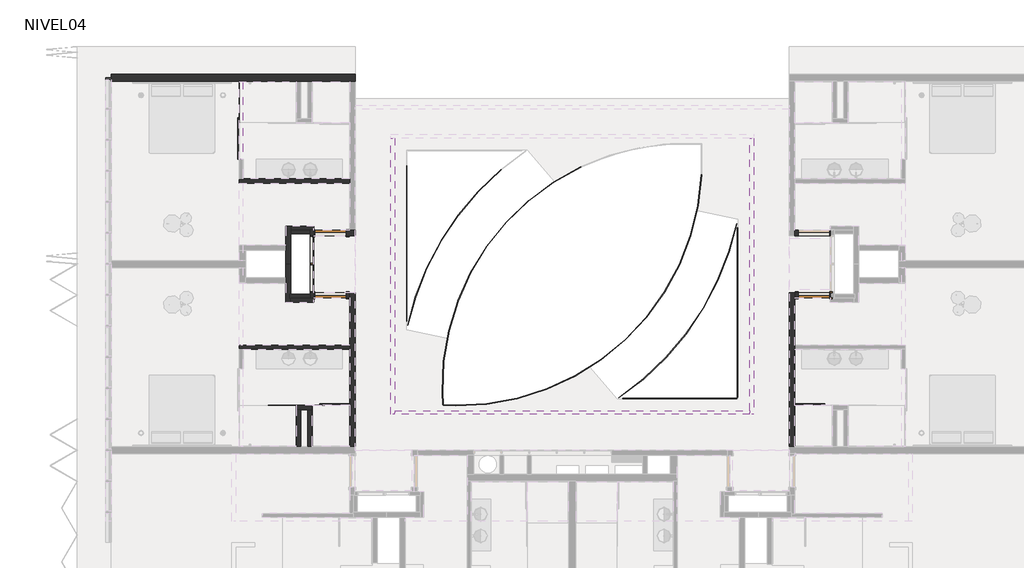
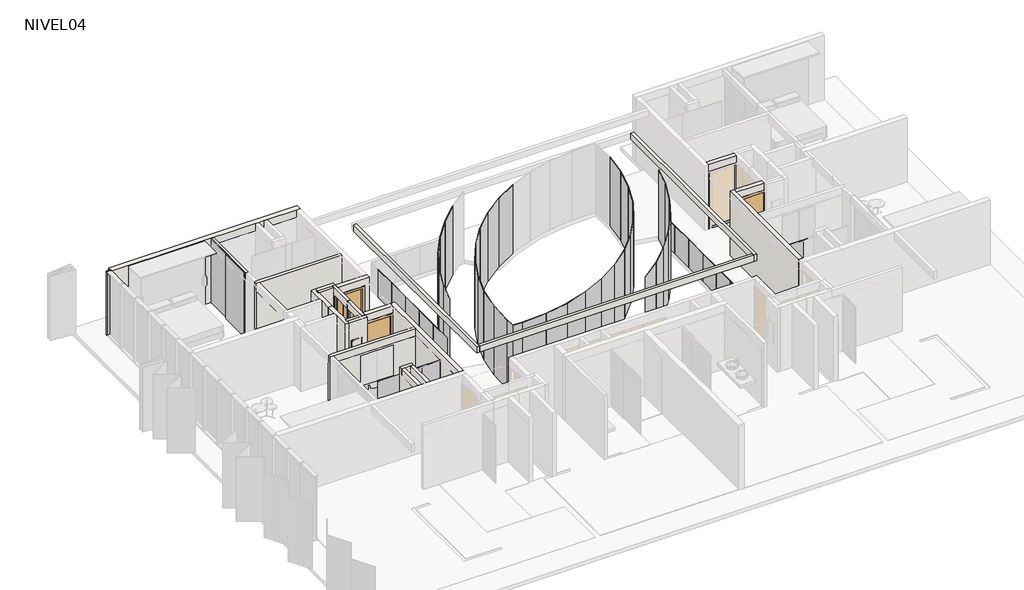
# One storey, part 5 of 8: 56 plates, 30 walls, 5 doors, 1 member.
"""IFC4 building model written with IfcOpenShell, lengths in millimetres."""

from ifc_helpers import new_model, si_unit, frame, origin, place, context, project, spatial, polyline, outline, extrude, faceted_brep, transform, mapped, element, save
from components import m_single_flush_910x_224_a4f79d59, m_single_flush_910x_224_d199ccfa, puerta_closet_shaft_82_5_x_224cm_10222c01, puerta_closet_shaft_82_5_x_224cm_6ba6ac82, rectangular_mullion_50_x_150mm_da4cfd0d, panel_corredera_cr_panel_corredera_1cb9417a, panel_corredera_cr_panel_corredera_99e605cf, panel_corredera_cr_panel_corredera_8db39db7, system_panel_5ccbd7a3, system_panel_34dc83f9, system_panel_bb99d6db, system_panel_d16f8cfc, system_panel_5bddcc3b, system_panel_8f9a12f6, system_panel_c363a63a, system_panel_ba3bad07, system_panel_cr_shower_c0953742, system_panel_cr_shower_685ec66b

model = new_model("IFC4")

# Units and contexts
model_context = context("Model", 3, world=origin())
ifc_project = project(units=[si_unit("LENGTHUNIT", "METRE", prefix="MILLI")], contexts=[model_context])

# Site, building, storey
site = spatial("IfcSite", under=ifc_project)
building = spatial("IfcBuilding", under=site)
storey = spatial("IfcBuildingStorey", under=building, Name="NIVEL04", Elevation=7940.0)

# Doors
placement = place(None, origin())
m_single_flush_910x_224_shape = m_single_flush_910x_224_a4f79d59(model_context)
element("IfcDoor", 1, ObjectType="M_Single-Flush : 910x 224", at=placement, inside=storey, context=model_context, shape_type="MappedRepresentation", body=[
    mapped(m_single_flush_910x_224_shape, transform((-14191.0934748, 6033.9139241, 7940.0), x_axis=(1.0, 0.0, 0.0), y_axis=(0.0, 1.0, 0.0), z_axis=(0.0, 0.0, 1.0))),
])
element("IfcDoor", 2, ObjectType="M_Single-Flush : 910x 224", at=placement, inside=storey, context=model_context, shape_type="MappedRepresentation", body=[
    mapped(m_single_flush_910x_224_shape, transform((-176.0934748, 4233.9139241, 7940.0), x_axis=(-1.0, 0.0, 0.0), y_axis=(0.0, -1.0, 0.0), z_axis=(0.0, 0.0, 1.0))),
])
m_single_flush_910x_224_2_shape = m_single_flush_910x_224_d199ccfa(model_context)
element("IfcDoor", 3, ObjectType="M_Single-Flush : 910x 224", at=placement, inside=storey, context=model_context, shape_type="MappedRepresentation", body=[
    mapped(m_single_flush_910x_224_2_shape, transform((-14191.0934748, 4233.9139241, 7940.0), x_axis=(1.0, 0.0, 0.0), y_axis=(0.0, 1.0, 0.0), z_axis=(0.0, 0.0, 1.0))),
])
puerta_closet_shaft_82_5_x_224cm_shape = puerta_closet_shaft_82_5_x_224cm_10222c01(model_context)
element("IfcDoor", 4, ObjectType="PUERTA CLOSET SHAFT : 82.5 x 224cm", at=placement, inside=storey, context=model_context, shape_type="MappedRepresentation", body=[
    mapped(puerta_closet_shaft_82_5_x_224cm_shape, transform((-14728.5934748, 4404.8823532, 7940.0), x_axis=(0.0, -1.0, 0.0), y_axis=(1.0, 0.0, 0.0), z_axis=(0.0, 0.0, 1.0))),
])
puerta_closet_shaft_82_5_x_224cm_2_shape = puerta_closet_shaft_82_5_x_224cm_6ba6ac82(model_context)
element("IfcDoor", 5, ObjectType="PUERTA CLOSET SHAFT : 82.5 x 224cm", at=placement, inside=storey, context=model_context, shape_type="MappedRepresentation", body=[
    mapped(puerta_closet_shaft_82_5_x_224cm_2_shape, transform((-14728.5934748, 5862.9454949, 7940.0), x_axis=(0.0, 1.0, 0.0), y_axis=(-1.0, 0.0, 0.0), z_axis=(0.0, 0.0, 1.0))),
])

# Member
rectangular_mullion_50_x_150mm_shape = rectangular_mullion_50_x_150mm_da4cfd0d(model_context)
element("IfcMember", 6, ObjectType="Rectangular Mullion : 50 x 150mm", at=placement, inside=storey, context=model_context, shape_type="MappedRepresentation", body=[
    mapped(rectangular_mullion_50_x_150mm_shape, transform((-20633.5934748, 10533.9139241, 10490.0), x_axis=(0.0, 1.0, 0.0), y_axis=(-1.0, 0.0, 0.0), z_axis=(0.0, 0.0, 1.0))),
])

# Plates
panel_corredera_cr_panel_corredera_shape = panel_corredera_cr_panel_corredera_1cb9417a(model_context)
element("IfcPlate", 7, ObjectType="PANEL CORREDERA : CR_PANEL CORREDERA", at=placement, inside=storey, context=model_context, shape_type="MappedRepresentation", body=[
    mapped(panel_corredera_cr_panel_corredera_shape, transform((-13994.9268082, 1033.9139241, 7940.0), x_axis=(-1.0, 0.0, 0.0), y_axis=(0.0, -1.0, 0.0), z_axis=(0.0, 0.0, 1.0))),
])
panel_corredera_cr_panel_corredera_2_shape = panel_corredera_cr_panel_corredera_99e605cf(model_context)
element("IfcPlate", 8, ObjectType="PANEL CORREDERA : CR_PANEL CORREDERA", at=placement, inside=storey, context=model_context, shape_type="MappedRepresentation", body=[
    mapped(panel_corredera_cr_panel_corredera_2_shape, transform((-372.2601415, 1033.9139241, 7940.0), x_axis=(1.0, 0.0, 0.0), y_axis=(0.0, 1.0, 0.0), z_axis=(0.0, 0.0, 1.0))),
])
panel_corredera_cr_panel_corredera_3_shape = panel_corredera_cr_panel_corredera_8db39db7(model_context)
element("IfcPlate", 9, ObjectType="PANEL CORREDERA : CR_PANEL CORREDERA", at=placement, inside=storey, context=model_context, shape_type="MappedRepresentation", body=[
    mapped(panel_corredera_cr_panel_corredera_3_shape, transform((-16848.5934748, 8703.9139241, 7940.0), x_axis=(0.0, 1.0, 0.0), y_axis=(-1.0, 0.0, 0.0), z_axis=(0.0, 0.0, 1.0))),
])
system_panel_shape = system_panel_5ccbd7a3(model_context)
element("IfcPlate", 10, ObjectType="System Panel : CR-BARANDA", at=placement, inside=storey, context=model_context, shape_type="MappedRepresentation", body=[
    mapped(system_panel_shape, transform((-2383.5934748, 5738.757085, 7940.0), x_axis=(0.0, -1.0, 0.0), y_axis=(1.0, 0.0, 0.0), z_axis=(0.0, 0.0, 1.0))),
])
element("IfcPlate", 11, ObjectType="System Panel : CR-BARANDA", at=placement, inside=storey, context=model_context, shape_type="MappedRepresentation", body=[
    mapped(system_panel_shape, transform((-2859.843475, 1233.9139241, 7940.0), x_axis=(-1.0, 0.0, 0.0), y_axis=(0.0, -1.0, 0.0), z_axis=(0.0, 0.0, 1.0))),
])
element("IfcPlate", 12, ObjectType="System Panel : CR-BARANDA", at=placement, inside=storey, context=model_context, shape_type="MappedRepresentation", body=[
    mapped(system_panel_shape, transform((-11983.5934748, 3929.0707631, 7940.0), x_axis=(0.0, 1.0, 0.0), y_axis=(-1.0, 0.0, 0.0), z_axis=(0.0, 0.0, 1.0))),
])
element("IfcPlate", 13, ObjectType="System Panel : CR-BARANDA", at=placement, inside=storey, context=model_context, shape_type="MappedRepresentation", body=[
    mapped(system_panel_shape, transform((-3759.8434752, 1233.9139241, 7940.0), x_axis=(-1.0, 0.0, 0.0), y_axis=(0.0, -1.0, 0.0), z_axis=(0.0, 0.0, 1.0))),
])
element("IfcPlate", 14, ObjectType="System Panel : CR-BARANDA", at=placement, inside=storey, context=model_context, shape_type="MappedRepresentation", body=[
    mapped(system_panel_shape, transform((-4659.8434752, 1233.9139241, 7940.0), x_axis=(-1.0, 0.0, 0.0), y_axis=(0.0, -1.0, 0.0), z_axis=(0.0, 0.0, 1.0))),
])
element("IfcPlate", 15, ObjectType="System Panel : CR-BARANDA", at=placement, inside=storey, context=model_context, shape_type="MappedRepresentation", body=[
    mapped(system_panel_shape, transform((-2383.5934748, 4838.7570848, 7940.0), x_axis=(0.0, -1.0, 0.0), y_axis=(1.0, 0.0, 0.0), z_axis=(0.0, 0.0, 1.0))),
])
element("IfcPlate", 16, ObjectType="System Panel : CR-BARANDA", at=placement, inside=storey, context=model_context, shape_type="MappedRepresentation", body=[
    mapped(system_panel_shape, transform((-2383.5934748, 3938.7570848, 7940.0), x_axis=(0.0, -1.0, 0.0), y_axis=(1.0, 0.0, 0.0), z_axis=(0.0, 0.0, 1.0))),
])
element("IfcPlate", 17, ObjectType="System Panel : CR-BARANDA", at=placement, inside=storey, context=model_context, shape_type="MappedRepresentation", body=[
    mapped(system_panel_shape, transform((-2383.5934748, 3038.7570848, 7940.0), x_axis=(0.0, -1.0, 0.0), y_axis=(1.0, 0.0, 0.0), z_axis=(0.0, 0.0, 1.0))),
])
element("IfcPlate", 18, ObjectType="System Panel : CR-BARANDA", at=placement, inside=storey, context=model_context, shape_type="MappedRepresentation", body=[
    mapped(system_panel_shape, transform((-2383.5934748, 2138.7570848, 7940.0), x_axis=(0.0, -1.0, 0.0), y_axis=(1.0, 0.0, 0.0), z_axis=(0.0, 0.0, 1.0))),
])
element("IfcPlate", 19, ObjectType="System Panel : CR-BARANDA", at=placement, inside=storey, context=model_context, shape_type="MappedRepresentation", body=[
    mapped(system_panel_shape, transform((-11983.5934748, 4829.0707633, 7940.0), x_axis=(0.0, 1.0, 0.0), y_axis=(-1.0, 0.0, 0.0), z_axis=(0.0, 0.0, 1.0))),
])
element("IfcPlate", 20, ObjectType="System Panel : CR-BARANDA", at=placement, inside=storey, context=model_context, shape_type="MappedRepresentation", body=[
    mapped(system_panel_shape, transform((-11983.5934748, 5729.0707633, 7940.0), x_axis=(0.0, 1.0, 0.0), y_axis=(-1.0, 0.0, 0.0), z_axis=(0.0, 0.0, 1.0))),
])
element("IfcPlate", 21, ObjectType="System Panel : CR-BARANDA", at=placement, inside=storey, context=model_context, shape_type="MappedRepresentation", body=[
    mapped(system_panel_shape, transform((-11983.5934748, 6629.0707633, 7940.0), x_axis=(0.0, 1.0, 0.0), y_axis=(-1.0, 0.0, 0.0), z_axis=(0.0, 0.0, 1.0))),
])
element("IfcPlate", 22, ObjectType="System Panel : CR-BARANDA", at=placement, inside=storey, context=model_context, shape_type="MappedRepresentation", body=[
    mapped(system_panel_shape, transform((-11983.5934748, 7529.0707633, 7940.0), x_axis=(0.0, 1.0, 0.0), y_axis=(-1.0, 0.0, 0.0), z_axis=(0.0, 0.0, 1.0))),
])
system_panel_2_shape = system_panel_34dc83f9(model_context)
element("IfcPlate", 23, ObjectType="System Panel : CR-BARANDA", at=placement, inside=storey, context=model_context, shape_type="MappedRepresentation", body=[
    mapped(system_panel_2_shape, transform((-5412.343475, 1233.9139241, 7940.0), x_axis=(-1.0, 0.0, 0.0), y_axis=(0.0, -1.0, 0.0), z_axis=(0.0, 0.0, 1.0))),
])
system_panel_3_shape = system_panel_bb99d6db(model_context)
element("IfcPlate", 24, ObjectType="System Panel : CR-BARANDA", at=placement, inside=storey, context=model_context, shape_type="MappedRepresentation", body=[
    mapped(system_panel_3_shape, transform((-2383.5934748, 1478.757085, 7940.0), x_axis=(0.0, -1.0, 0.0), y_axis=(1.0, 0.0, 0.0), z_axis=(0.0, 0.0, 1.0))),
])
system_panel_4_shape = system_panel_d16f8cfc(model_context)
element("IfcPlate", 25, ObjectType="System Panel : CR-BARANDA", at=placement, inside=storey, context=model_context, shape_type="MappedRepresentation", body=[
    mapped(system_panel_4_shape, transform((-7331.2063026, 7728.1154532, 7940.0), x_axis=(-0.8730074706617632, -0.4877068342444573, 0.0), y_axis=(0.4877068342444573, -0.8730074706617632, 0.0), z_axis=(0.0, 0.0, 1.0))),
])
element("IfcPlate", 26, ObjectType="System Panel : CR-BARANDA", at=placement, inside=storey, context=model_context, shape_type="MappedRepresentation", body=[
    mapped(system_panel_4_shape, transform((-8085.741745, 7240.9048287, 7940.0), x_axis=(-0.8037379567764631, -0.5949834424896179, 0.0), y_axis=(0.5949834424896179, -0.8037379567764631, 0.0), z_axis=(0.0, 0.0, 1.0))),
])
element("IfcPlate", 27, ObjectType="System Panel : CR-BARANDA", at=placement, inside=storey, context=model_context, shape_type="MappedRepresentation", body=[
    mapped(system_panel_4_shape, transform((-8772.0368429, 6661.5112103, 7940.0), x_axis=(-0.7213622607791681, -0.6925579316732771, 0.0), y_axis=(0.6925579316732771, -0.7213622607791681, 0.0), z_axis=(0.0, 0.0, 1.0))),
])
element("IfcPlate", 28, ObjectType="System Panel : CR-BARANDA", at=placement, inside=storey, context=model_context, shape_type="MappedRepresentation", body=[
    mapped(system_panel_4_shape, transform((-9378.9005004, 5999.3825011, 7940.0), x_axis=(-0.6272236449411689, -0.7788391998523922, 0.0), y_axis=(0.7788391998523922, -0.6272236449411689, 0.0), z_axis=(0.0, 0.0, 1.0))),
])
element("IfcPlate", 29, ObjectType="System Panel : CR-BARANDA", at=placement, inside=storey, context=model_context, shape_type="MappedRepresentation", body=[
    mapped(system_panel_4_shape, transform((-9896.4368735, 5265.3157269, 7940.0), x_axis=(-0.5228571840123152, -0.8524202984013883, 0.0), y_axis=(0.8524202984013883, -0.5228571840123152, 0.0), z_axis=(0.0, 0.0, 1.0))),
])
element("IfcPlate", 30, ObjectType="System Panel : CR-BARANDA", at=placement, inside=storey, context=model_context, shape_type="MappedRepresentation", body=[
    mapped(system_panel_4_shape, transform((-10316.2067363, 4471.2809741, 7940.0), x_axis=(-0.40996473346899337, -0.9121013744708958, 0.0), y_axis=(0.9121013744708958, -0.40996473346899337, 0.0), z_axis=(0.0, 0.0, 1.0))),
])
element("IfcPlate", 31, ObjectType="System Panel : CR-BARANDA", at=placement, inside=storey, context=model_context, shape_type="MappedRepresentation", body=[
    mapped(system_panel_4_shape, transform((-10631.3650965, 3630.2261992, 7940.0), x_axis=(-0.2903871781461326, -0.9569092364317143, 0.0), y_axis=(0.9569092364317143, -0.2903871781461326, 0.0), z_axis=(0.0, 0.0, 1.0))),
])
element("IfcPlate", 32, ObjectType="System Panel : CR-BARANDA", at=placement, inside=storey, context=model_context, shape_type="MappedRepresentation", body=[
    mapped(system_panel_4_shape, transform((-10836.7728129, 2755.8660923, 7940.0), x_axis=(-0.16607441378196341, -0.9861132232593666, 0.0), y_axis=(0.9861132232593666, -0.16607441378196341, 0.0), z_axis=(0.0, 0.0, 1.0))),
])
element("IfcPlate", 33, ObjectType="System Panel : CR-BARANDA", at=placement, inside=storey, context=model_context, shape_type="MappedRepresentation", body=[
    mapped(system_panel_4_shape, transform((-10929.0803971, 1862.4584383, 7940.0), x_axis=(-0.039053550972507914, -0.9992371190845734, 0.0), y_axis=(0.9992371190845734, -0.039053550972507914, 0.0), z_axis=(0.0, 0.0, 1.0))),
])
system_panel_5_shape = system_panel_5bddcc3b(model_context)
element("IfcPlate", 34, ObjectType="System Panel : CR-BARANDA", at=placement, inside=storey, context=model_context, shape_type="MappedRepresentation", body=[
    mapped(system_panel_5_shape, transform((-10937.3624941, 1230.0346436, 7940.0), x_axis=(0.05077508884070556, -0.9987101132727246, 0.0), y_axis=(0.9987101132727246, 0.05077508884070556, 0.0), z_axis=(0.0, 0.0, 1.0))),
])
system_panel_6_shape = system_panel_8f9a12f6(model_context)
element("IfcPlate", 35, ObjectType="System Panel : CR-BARANDA", at=placement, inside=storey, context=model_context, shape_type="MappedRepresentation", body=[
    mapped(system_panel_6_shape, transform((-5476.4920391, 1528.1257546, 7940.0), x_axis=(0.7955573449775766, 0.6058782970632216, 0.0), y_axis=(-0.6058782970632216, 0.7955573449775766, 0.0), z_axis=(0.0, 0.0, 1.0))),
])
element("IfcPlate", 36, ObjectType="System Panel : CR-BARANDA", at=placement, inside=storey, context=model_context, shape_type="MappedRepresentation", body=[
    mapped(system_panel_4_shape, transform((-9573.0942482, 7558.7054405, 7940.0), x_axis=(-0.7250107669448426, -0.6887375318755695, 0.0), y_axis=(0.6887375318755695, -0.7250107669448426, 0.0), z_axis=(0.0, 0.0, 1.0))),
])
element("IfcPlate", 37, ObjectType="System Panel : CR-BARANDA", at=placement, inside=storey, context=model_context, shape_type="MappedRepresentation", body=[
    mapped(system_panel_4_shape, transform((-10189.892753, 6905.1394698, 7940.0), x_axis=(-0.645652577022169, -0.763631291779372, 0.0), y_axis=(0.763631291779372, -0.645652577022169, 0.0), z_axis=(0.0, 0.0, 1.0))),
])
element("IfcPlate", 38, ObjectType="System Panel : CR-BARANDA", at=placement, inside=storey, context=model_context, shape_type="MappedRepresentation", body=[
    mapped(system_panel_4_shape, transform((-10731.8094423, 6188.2606967, 7940.0), x_axis=(-0.558606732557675, -0.8294326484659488, 0.0), y_axis=(0.8294326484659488, -0.558606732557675, 0.0), z_axis=(0.0, 0.0, 1.0))),
])
element("IfcPlate", 39, ObjectType="System Panel : CR-BARANDA", at=placement, inside=storey, context=model_context, shape_type="MappedRepresentation", body=[
    mapped(system_panel_4_shape, transform((-11192.3918238, 5416.6048516, 7940.0), x_axis=(-0.46490967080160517, -0.8853581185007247, 0.0), y_axis=(0.8853581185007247, -0.46490967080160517, 0.0), z_axis=(0.0, 0.0, 1.0))),
])
element("IfcPlate", 40, ObjectType="System Panel : CR-BARANDA", at=placement, inside=storey, context=model_context, shape_type="MappedRepresentation", body=[
    mapped(system_panel_4_shape, transform((-11566.1558363, 4599.3598844, 7940.0), x_axis=(-0.36567702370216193, -0.9307418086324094, 0.0), y_axis=(0.9307418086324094, -0.36567702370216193, 0.0), z_axis=(0.0, 0.0, 1.0))),
])
element("IfcPlate", 41, ObjectType="System Panel : CR-BARANDA", at=placement, inside=storey, context=model_context, shape_type="MappedRepresentation", body=[
    mapped(system_panel_4_shape, transform((-3479.1267798, 7273.6025956, 7940.0), x_axis=(-0.11465787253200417, -0.9934050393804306, 0.0), y_axis=(0.9934050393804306, -0.11465787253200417, 0.0), z_axis=(0.0, 0.0, 1.0))),
])
element("IfcPlate", 42, ObjectType="System Panel : CR-BARANDA", at=placement, inside=storey, context=model_context, shape_type="MappedRepresentation", body=[
    mapped(system_panel_4_shape, transform((-3638.8664144, 6389.7580529, 7940.0), x_axis=(-0.24031909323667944, -0.9706939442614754, 0.0), y_axis=(0.9706939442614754, -0.24031909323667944, 0.0), z_axis=(0.0, 0.0, 1.0))),
])
element("IfcPlate", 43, ObjectType="System Panel : CR-BARANDA", at=placement, inside=storey, context=model_context, shape_type="MappedRepresentation", body=[
    mapped(system_panel_4_shape, transform((-3909.9377002, 5533.4763911, 7940.0), x_axis=(-0.36206154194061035, -0.9321541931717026, 0.0), y_axis=(0.9321541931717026, -0.36206154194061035, 0.0), z_axis=(0.0, 0.0, 1.0))),
])
element("IfcPlate", 44, ObjectType="System Panel : CR-BARANDA", at=placement, inside=storey, context=model_context, shape_type="MappedRepresentation", body=[
    mapped(system_panel_4_shape, transform((-4287.9204035, 4718.720598, 7940.0), x_axis=(-0.4779000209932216, -0.87841423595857, 0.0), y_axis=(0.87841423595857, -0.4779000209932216, 0.0), z_axis=(0.0, 0.0, 1.0))),
])
element("IfcPlate", 45, ObjectType="System Panel : CR-BARANDA", at=placement, inside=storey, context=model_context, shape_type="MappedRepresentation", body=[
    mapped(system_panel_4_shape, transform((-4766.6509357, 3958.7765185, 7940.0), x_axis=(-0.5859456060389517, -0.8103503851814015, 0.0), y_axis=(0.8103503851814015, -0.5859456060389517, 0.0), z_axis=(0.0, 0.0, 1.0))),
])
element("IfcPlate", 46, ObjectType="System Panel : CR-BARANDA", at=placement, inside=storey, context=model_context, shape_type="MappedRepresentation", body=[
    mapped(system_panel_4_shape, transform((-5338.32286, 3266.0362082, 7940.0), x_axis=(-0.6844364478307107, -0.7290725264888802, 0.0), y_axis=(0.7290725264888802, -0.6844364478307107, 0.0), z_axis=(0.0, 0.0, 1.0))),
])
element("IfcPlate", 47, ObjectType="System Panel : CR-BARANDA", at=placement, inside=storey, context=model_context, shape_type="MappedRepresentation", body=[
    mapped(system_panel_4_shape, transform((-5993.6141873, 2651.7958622, 7940.0), x_axis=(-0.7717665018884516, -0.6359060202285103, 0.0), y_axis=(0.6359060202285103, -0.7717665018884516, 0.0), z_axis=(0.0, 0.0, 1.0))),
])
element("IfcPlate", 48, ObjectType="System Panel : CR-BARANDA", at=placement, inside=storey, context=model_context, shape_type="MappedRepresentation", body=[
    mapped(system_panel_4_shape, transform((-6721.8393861, 2126.0716129, 7940.0), x_axis=(-0.8465117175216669, -0.5323700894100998, 0.0), y_axis=(0.5323700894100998, -0.8465117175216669, 0.0), z_axis=(0.0, 0.0, 1.0))),
])
element("IfcPlate", 49, ObjectType="System Panel : CR-BARANDA", at=placement, inside=storey, context=model_context, shape_type="MappedRepresentation", body=[
    mapped(system_panel_4_shape, transform((-7511.1236256, 1697.4362017, 7940.0), x_axis=(-0.9074532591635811, -0.4201530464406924, 0.0), y_axis=(0.4201530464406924, -0.9074532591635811, 0.0), z_axis=(0.0, 0.0, 1.0))),
])
element("IfcPlate", 50, ObjectType="System Panel : CR-BARANDA", at=placement, inside=storey, context=model_context, shape_type="MappedRepresentation", body=[
    mapped(system_panel_4_shape, transform((-8348.5964138, 1372.8791877, 7940.0), x_axis=(-0.9535973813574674, -0.301084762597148, 0.0), y_axis=(0.301084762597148, -0.9535973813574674, 0.0), z_axis=(0.0, 0.0, 1.0))),
])
element("IfcPlate", 51, ObjectType="System Panel : CR-BARANDA", at=placement, inside=storey, context=model_context, shape_type="MappedRepresentation", body=[
    mapped(system_panel_4_shape, transform((-9220.6014704, 1157.6929714, 7940.0), x_axis=(-0.9841916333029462, -0.1771068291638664, 0.0), y_axis=(0.1771068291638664, -0.9841916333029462, 0.0), z_axis=(0.0, 0.0, 1.0))),
])
element("IfcPlate", 52, ObjectType="System Panel : CR-BARANDA", at=placement, inside=storey, context=model_context, shape_type="MappedRepresentation", body=[
    mapped(system_panel_4_shape, transform((-10112.9194133, 1055.3864947, 7940.0), x_axis=(-0.9987371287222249, -0.050240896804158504, 0.0), y_axis=(0.050240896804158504, -0.9987371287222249, 0.0), z_axis=(0.0, 0.0, 1.0))),
])
element("IfcPlate", 53, ObjectType="System Panel : CR-BARANDA", at=placement, inside=storey, context=model_context, shape_type="MappedRepresentation", body=[
    mapped(system_panel_4_shape, transform((-4792.328012, 2110.7993037, 7940.0), x_axis=(0.724807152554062, 0.6889518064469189, 0.0), y_axis=(-0.6889518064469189, 0.724807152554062, 0.0), z_axis=(0.0, 0.0, 1.0))),
])
element("IfcPlate", 54, ObjectType="System Panel : CR-BARANDA", at=placement, inside=storey, context=model_context, shape_type="MappedRepresentation", body=[
    mapped(system_panel_4_shape, transform((-4175.7227206, 2764.5475642, 7940.0), x_axis=(0.6454268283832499, 0.7638221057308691, 0.0), y_axis=(-0.7638221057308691, 0.6454268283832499, 0.0), z_axis=(0.0, 0.0, 1.0))),
])
element("IfcPlate", 55, ObjectType="System Panel : CR-BARANDA", at=placement, inside=storey, context=model_context, shape_type="MappedRepresentation", body=[
    mapped(system_panel_4_shape, transform((-3634.0179559, 3481.5864902, 7940.0), x_axis=(0.5583615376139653, 0.8295977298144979, 0.0), y_axis=(-0.8295977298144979, 0.5583615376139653, 0.0), z_axis=(0.0, 0.0, 1.0))),
])
element("IfcPlate", 56, ObjectType="System Panel : CR-BARANDA", at=placement, inside=storey, context=model_context, shape_type="MappedRepresentation", body=[
    mapped(system_panel_4_shape, transform((-3173.6636869, 4253.3784444, 7940.0), x_axis=(0.4646479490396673, 0.8854955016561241, 0.0), y_axis=(-0.8854955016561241, 0.4646479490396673, 0.0), z_axis=(0.0, 0.0, 1.0))),
])
element("IfcPlate", 57, ObjectType="System Panel : CR-BARANDA", at=placement, inside=storey, context=model_context, shape_type="MappedRepresentation", body=[
    mapped(system_panel_4_shape, transform((-2800.1412587, 5070.7338561, 7940.0), x_axis=(0.36540189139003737, 0.9308498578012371, 0.0), y_axis=(-0.9308498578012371, 0.36540189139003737, 0.0), z_axis=(0.0, 0.0, 1.0))),
])
element("IfcPlate", 58, ObjectType="System Panel : CR-BARANDA", at=placement, inside=storey, context=model_context, shape_type="MappedRepresentation", body=[
    mapped(system_panel_5_shape, transform((-10745.2108072, 1040.0228218, 7940.0), x_axis=(-0.9992160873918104, 0.03958801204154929, 0.0), y_axis=(-0.03958801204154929, -0.9992160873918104, 0.0), z_axis=(0.0, 0.0, 1.0))),
])
system_panel_7_shape = system_panel_c363a63a(model_context)
element("IfcPlate", 59, ObjectType="System Panel : CR-BARANDA", at=placement, inside=storey, context=model_context, shape_type="MappedRepresentation", body=[
    mapped(system_panel_7_shape, transform((-2523.9277538, 5896.1430611, 7940.0), x_axis=(0.2651295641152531, 0.9642127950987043, 0.0), y_axis=(-0.9642127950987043, 0.2651295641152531, 0.0), z_axis=(0.0, 0.0, 1.0))),
])
system_panel_8_shape = system_panel_ba3bad07(model_context)
element("IfcPlate", 60, ObjectType="System Panel : CR-BARANDA", at=placement, inside=storey, context=model_context, shape_type="MappedRepresentation", body=[
    mapped(system_panel_8_shape, transform((-11842.8761734, 3772.8420443, 7940.0), x_axis=(-0.2652720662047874, -0.9641735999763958, 0.0), y_axis=(0.9641735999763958, -0.2652720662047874, 0.0), z_axis=(0.0, 0.0, 1.0))),
])
system_panel_cr_shower_shape = system_panel_cr_shower_c0953742(model_context)
element("IfcPlate", 61, ObjectType="System Panel : CR-SHOWER", at=placement, inside=storey, context=model_context, shape_type="MappedRepresentation", body=[
    mapped(system_panel_cr_shower_shape, transform((-15178.9268082, 1033.9139241, 7940.0), x_axis=(1.0, 0.0, 0.0), y_axis=(0.0, 1.0, 0.0), z_axis=(0.0, 0.0, 1.0))),
])
system_panel_cr_shower_2_shape = system_panel_cr_shower_685ec66b(model_context)
element("IfcPlate", 62, ObjectType="System Panel : CR-SHOWER", at=placement, inside=storey, context=model_context, shape_type="MappedRepresentation", body=[
    mapped(system_panel_cr_shower_2_shape, transform((-16848.5934748, 9833.9139241, 7940.0), x_axis=(0.0, 1.0, 0.0), y_axis=(-1.0, 0.0, 0.0), z_axis=(0.0, 0.0, 1.0))),
])

# Walls
element("IfcWall", 63, ObjectType="SCV.TI.A.150.120.212.47.1", at=placement, inside=storey, context=model_context, shape_type="Brep", body=[
    faceted_brep([(-13483.5934748, -166.0860759, 7920.0), (-13483.5934748, 4308.9139241, 7920.0), (-13483.5934748, 4308.9139241, 10490.0), (-13483.5934748, -166.0860759, 10490.0), (-13633.5934748, -166.0860759, 7920.0), (-13633.5934748, -166.0860759, 10490.0), (-13633.5934748, 2673.9139241, 10490.0), (-13633.5934748, 2783.9139241, 10490.0), (-13633.5934748, 4158.9139241, 10490.0), (-13633.5934748, 4308.9139241, 10490.0), (-13633.5934748, 4308.9139241, 7920.0), (-13633.5934748, 4158.9139241, 7920.0), (-13633.5934748, 2783.9139241, 7920.0), (-13633.5934748, 2673.9139241, 7920.0)], [[[0, 1, 2, 3]], [[4, 5, 6, 7, 8, 9, 10, 11, 12, 13]], [[1, 0, 4, 13, 12, 11, 10]], [[3, 2, 9, 8, 7, 6, 5]], [[2, 1, 10, 9]], [[0, 3, 5, 4]]]),
])
element("IfcWall", 64, ObjectType="SCV.TI.A.150.120.212.47.1", at=placement, inside=storey, context=model_context, shape_type="Brep", body=[
    faceted_brep([(-733.5934748, -166.0860759, 7920.0), (-733.5934748, 2673.9139241, 7920.0), (-733.5934748, 2783.9139241, 7920.0), (-733.5934748, 4158.9139241, 7920.0), (-733.5934748, 4308.9139241, 7920.0), (-733.5934748, 4308.9139241, 10490.0), (-733.5934748, 4158.9139241, 10490.0), (-733.5934748, 2783.9139241, 10490.0), (-733.5934748, 2673.9139241, 10490.0), (-733.5934748, -166.0860759, 10490.0), (-883.5934748, -166.0860759, 7920.0), (-883.5934748, -166.0860759, 10490.0), (-883.5934748, 4308.9139241, 10490.0), (-883.5934748, 4308.9139241, 7920.0)], [[[0, 1, 2, 3, 4, 5, 6, 7, 8, 9]], [[10, 11, 12, 13]], [[4, 3, 2, 1, 0, 10, 13]], [[9, 8, 7, 6, 5, 12, 11]], [[5, 4, 13, 12]], [[0, 9, 11, 10]]]),
])
element("IfcWall", 65, ObjectType="SCV.TI.A.110.090.143.47.1", at=placement, inside=storey, context=model_context, shape_type="Brep", body=[
    faceted_brep([(-14783.5934748, 6123.9139241, 7920.0), (-14783.5934748, 6013.9139241, 7920.0), (-14783.5934748, 5128.3504322, 7920.0), (-14783.5934748, 5128.3504322, 10490.0), (-14783.5934748, 6013.9139241, 10490.0), (-14783.5934748, 6123.9139241, 10490.0), (-14783.5934748, 5958.9139241, 10180.0), (-14783.5934748, 5133.9139241, 10180.0), (-14783.5934748, 5133.9139241, 7940.0), (-14783.5934748, 5958.9139241, 7940.0), (-14673.5934748, 5128.3504322, 7920.0), (-14673.5934748, 5958.9139241, 7920.0), (-14673.5934748, 6108.9139241, 7920.0), (-14673.5934748, 6123.9139241, 7920.0), (-14673.5934748, 6123.9139241, 10490.0), (-14673.5934748, 6108.9139241, 10490.0), (-14673.5934748, 5958.9139241, 10490.0), (-14673.5934748, 5128.3504322, 10490.0), (-14673.5934748, 5133.9139241, 10180.0), (-14673.5934748, 5958.9139241, 10180.0), (-14673.5934748, 5958.9139241, 7940.0), (-14673.5934748, 5133.9139241, 7940.0)], [[[0, 1, 2, 3, 4, 5], [6, 7, 8, 9]], [[10, 11, 12, 13, 14, 15, 16, 17], [18, 19, 20, 21]], [[2, 1, 0, 13, 12, 11, 10]], [[3, 2, 10, 17]], [[5, 4, 3, 17, 16, 15, 14]], [[6, 19, 18, 7]], [[8, 21, 20, 9]], [[19, 6, 9, 20]], [[21, 8, 7, 18]], [[0, 5, 14, 13]]]),
])
element("IfcWall", 66, ObjectType="SCV.TI.A.150.120.212.47.1", at=placement, inside=storey, context=model_context, shape_type="Brep", body=[
    faceted_brep([(-13483.5934748, 6108.9139241, 7920.0), (-13633.5934748, 6108.9139241, 7920.0), (-14673.5934748, 6108.9139241, 7920.0), (-14673.5934748, 6108.9139241, 10490.0), (-13633.5934748, 6108.9139241, 10490.0), (-13483.5934748, 6108.9139241, 10490.0), (-14648.5934748, 6108.9139241, 7940.0), (-13733.5934748, 6108.9139241, 7940.0), (-13733.5934748, 6108.9139241, 10140.0), (-14648.5934748, 6108.9139241, 10140.0), (-14673.5934748, 5958.9139241, 7920.0), (-13483.5934748, 5958.9139241, 7920.0), (-13483.5934748, 5958.9139241, 10490.0), (-14673.5934748, 5958.9139241, 10490.0), (-14673.5934748, 5958.9139241, 10180.0), (-14673.5934748, 5958.9139241, 7940.0), (-13733.5934748, 5958.9139241, 7940.0), (-14648.5934748, 5958.9139241, 7940.0), (-14648.5934748, 5958.9139241, 10140.0), (-13733.5934748, 5958.9139241, 10140.0)], [[[0, 1, 2, 3, 4, 5], [6, 7, 8, 9]], [[10, 11, 12, 13, 14, 15], [16, 17, 18, 19]], [[2, 1, 0, 11, 10]], [[5, 4, 3, 13, 12]], [[6, 17, 16, 7]], [[8, 19, 18, 9]], [[17, 6, 9, 18]], [[19, 8, 7, 16]], [[0, 5, 12, 11]], [[3, 2, 10, 15, 14, 13]]]),
])
element("IfcWall", 67, ObjectType="SCV.TI.A.110.090.143.47.1", at=placement, inside=storey, context=model_context, shape_type="Brep", body=[
    faceted_brep([(-13633.5934748, 7593.9139241, 7920.0), (-16738.5934748, 7593.9139241, 7920.0), (-16848.5934748, 7593.9139241, 7920.0), (-16848.5934748, 7593.9139241, 10490.0), (-16738.5934748, 7593.9139241, 10490.0), (-13633.5934748, 7593.9139241, 10490.0), (-13633.5934748, 7483.9139241, 7920.0), (-13633.5934748, 7483.9139241, 10490.0), (-16738.5934748, 7483.9139241, 10490.0), (-16848.5934748, 7483.9139241, 10490.0), (-16848.5934748, 7483.9139241, 10190.0), (-16848.5934748, 7483.9139241, 7920.0)], [[[0, 1, 2, 3, 4, 5]], [[6, 7, 8, 9, 10, 11]], [[2, 1, 0, 6, 11]], [[5, 4, 3, 9, 8, 7]], [[0, 5, 7, 6]], [[2, 11, 10, 9, 3]]]),
])
element("IfcWall", 68, ObjectType="SCV.TI.A.110.090.143.47.1", at=placement, inside=storey, context=model_context, shape_type="Brep", body=[
    faceted_brep([(-14673.5934748, 6233.9139241, 7920.0), (-15343.5934748, 6233.9139241, 7920.0), (-15343.5934748, 6233.9139241, 10490.0), (-14673.5934748, 6233.9139241, 10490.0), (-14673.5934748, 6123.9139241, 7920.0), (-14673.5934748, 6123.9139241, 10490.0), (-14783.5934748, 6123.9139241, 10490.0), (-15343.5934748, 6123.9139241, 10490.0), (-15343.5934748, 6123.9139241, 7920.0), (-14783.5934748, 6123.9139241, 7920.0)], [[[0, 1, 2, 3]], [[4, 5, 6, 7, 8, 9]], [[1, 0, 4, 9, 8]], [[3, 2, 7, 6, 5]], [[0, 3, 5, 4]], [[2, 1, 8, 7]]]),
])
element("IfcWall", 69, ObjectType="REV-PORCELANATO_60*60", at=placement, inside=storey, context=model_context, shape_type="Brep", body=[
    faceted_brep([(-13633.5934748, 7603.9139241, 7960.0), (-13643.5934748, 7603.9139241, 7960.0), (-16728.5934748, 7603.9139241, 7960.0), (-16728.5934748, 7603.9139241, 10200.0), (-13643.5934748, 7603.9139241, 10200.0), (-13633.5934748, 7603.9139241, 10200.0), (-13633.5934748, 7593.9139241, 7960.0), (-13633.5934748, 7593.9139241, 10200.0), (-16728.5934748, 7593.9139241, 10200.0), (-16728.5934748, 7593.9139241, 7960.0)], [[[0, 1, 2, 3, 4, 5]], [[6, 7, 8, 9]], [[2, 1, 0, 6, 9]], [[5, 4, 3, 8, 7]], [[0, 5, 7, 6]], [[3, 2, 9, 8]]]),
])
element("IfcWall", 70, ObjectType="SCV.TI.A.110.090.143.47.1 2", at=placement, inside=storey, context=model_context, shape_type="SweptSolid", body=[
    extrude(outline(polyline([(-16848.5934748, 8173.9139241), (-16848.5934748, 10428.9139241), (-16738.5934748, 10428.9139241), (-16738.5934748, 8173.9139241), (-16848.5934748, 8173.9139241)])), frame((0.0, 0.0, 10190.0), z_axis=(0.0, 0.0, 1.0), x_axis=(1.0, 0.0, 0.0)), (0.0, 0.0, 1.0), 300.0),
])
element("IfcWall", 71, ObjectType="SCV.TI.A.110.090.143.47.1 2", at=placement, inside=storey, context=model_context, shape_type="Brep", body=[
    faceted_brep([(-12443.5934748, 773.9139241, 10490.0), (-12443.5934748, 8783.9139241, 10490.0), (-12443.5934748, 8783.9139241, 10245.0), (-12443.5934748, 773.9139241, 10245.0), (-12333.5934748, 8783.9139241, 10490.0), (-12333.5934748, 883.9139241, 10490.0), (-12333.5934748, 773.9139241, 10490.0), (-12333.5934748, 773.9139241, 10245.0), (-12333.5934748, 883.9139241, 10245.0), (-12333.5934748, 8783.9139241, 10245.0)], [[[0, 1, 2, 3]], [[4, 5, 6, 7, 8, 9]], [[1, 0, 6, 5, 4]], [[1, 4, 9, 2]], [[6, 0, 3, 7]], [[3, 2, 9, 8, 7]]]),
])
element("IfcWall", 72, ObjectType="SCV.TI.A.110.090.143.47.1 2", at=placement, inside=storey, context=model_context, shape_type="Brep", body=[
    faceted_brep([(-1923.5934748, 8783.9139241, 10490.0), (-1923.5934748, 773.9139241, 10490.0), (-1923.5934748, 773.9139241, 10245.0), (-1923.5934748, 8783.9139241, 10245.0), (-2033.5934748, 773.9139241, 10490.0), (-2033.5934748, 883.9139241, 10490.0), (-2033.5934748, 8783.9139241, 10490.0), (-2033.5934748, 8783.9139241, 10245.0), (-2033.5934748, 883.9139241, 10245.0), (-2033.5934748, 773.9139241, 10245.0)], [[[0, 1, 2, 3]], [[4, 5, 6, 7, 8, 9]], [[1, 0, 6, 5, 4]], [[6, 0, 3, 7]], [[1, 4, 9, 2]], [[3, 2, 9, 8, 7]]]),
])
element("IfcWall", 73, ObjectType="SCV.TI.A.110.090.143.47.1 2", at=placement, inside=storey, context=model_context, shape_type="SweptSolid", body=[
    extrude(outline(polyline([(-2033.5934748, 773.9139241), (-12333.5934748, 773.9139241), (-12333.5934748, 883.9139241), (-2033.5934748, 883.9139241), (-2033.5934748, 773.9139241)])), frame((0.0, 0.0, 10245.0), z_axis=(0.0, 0.0, 1.0), x_axis=(1.0, 0.0, 0.0)), (0.0, 0.0, 1.0), 245.0),
])
element("IfcWall", 74, ObjectType="SCV.TI.A.110.090.143.47.1", at=placement, inside=storey, context=model_context, shape_type="SweptSolid", body=[
    extrude(outline(polyline([(-15373.5934748, 6123.9139241), (-14783.5934748, 6123.9139241), (-14783.5934748, 6013.9139241), (-15373.5934748, 6013.9139241), (-15373.5934748, 6123.9139241)])), frame((0.0, 0.0, 7920.0), z_axis=(0.0, 0.0, 1.0), x_axis=(1.0, 0.0, 0.0)), (0.0, 0.0, 1.0), 2570.0),
])
element("IfcWall", 75, ObjectType="SCV.TI.A.150.120.212.47.1", at=placement, inside=storey, context=model_context, shape_type="Brep", body=[
    faceted_brep([(-15343.5934748, 5133.9139241, 7920.0), (-15343.5934748, 6123.9139241, 7920.0), (-15343.5934748, 6233.9139241, 7920.0), (-15343.5934748, 6233.9139241, 10490.0), (-15343.5934748, 6123.9139241, 10490.0), (-15343.5934748, 5133.9139241, 10490.0), (-15493.5934748, 5133.9139241, 7920.0), (-15493.5934748, 5133.9139241, 10490.0), (-15493.5934748, 5533.9139241, 10490.0), (-15493.5934748, 5683.9139241, 10490.0), (-15493.5934748, 6233.9139241, 10490.0), (-15493.5934748, 6233.9139241, 7920.0), (-15493.5934748, 5683.9139241, 7920.0), (-15493.5934748, 5533.9139241, 7920.0)], [[[0, 1, 2, 3, 4, 5]], [[6, 7, 8, 9, 10, 11, 12, 13]], [[2, 1, 0, 6, 13, 12, 11]], [[5, 4, 3, 10, 9, 8, 7]], [[0, 5, 7, 6]], [[3, 2, 11, 10]]]),
])
element("IfcWall", 76, ObjectType="SCV.TI.A.150.120.212.47.1", at=placement, inside=storey, context=model_context, shape_type="Brep", body=[
    faceted_brep([(-733.5934748, 5958.9139241, 7920.0), (306.4065252, 5958.9139241, 7920.0), (306.4065252, 5958.9139241, 7940.0), (306.4065252, 5958.9139241, 10180.0), (306.4065252, 5958.9139241, 10490.0), (-733.5934748, 5958.9139241, 10490.0), (281.4065252, 5958.9139241, 7940.0), (-633.5934748, 5958.9139241, 7940.0), (-633.5934748, 5958.9139241, 10140.0), (281.4065252, 5958.9139241, 10140.0), (306.4065252, 6108.9139241, 7920.0), (-733.5934748, 6108.9139241, 7920.0), (-733.5934748, 6108.9139241, 10490.0), (306.4065252, 6108.9139241, 10490.0), (-633.5934748, 6108.9139241, 7940.0), (281.4065252, 6108.9139241, 7940.0), (281.4065252, 6108.9139241, 10140.0), (-633.5934748, 6108.9139241, 10140.0)], [[[0, 1, 2, 3, 4, 5], [6, 7, 8, 9]], [[10, 11, 12, 13], [14, 15, 16, 17]], [[1, 0, 11, 10]], [[5, 4, 13, 12]], [[6, 15, 14, 7]], [[8, 17, 16, 9]], [[15, 6, 9, 16]], [[17, 8, 7, 14]], [[4, 3, 2, 1, 10, 13]], [[0, 5, 12, 11]]]),
])
element("IfcWall", 77, ObjectType="SCV.TI.A.110.090.143.47.1", at=placement, inside=storey, context=model_context, shape_type="Brep", body=[
    faceted_brep([(-14673.5934748, 4143.9139241, 7920.0), (-14673.5934748, 4158.9139241, 7920.0), (-14673.5934748, 4308.9139241, 7920.0), (-14673.5934748, 5139.4774159, 7920.0), (-14673.5934748, 5139.4774159, 7940.0), (-14673.5934748, 4308.9139241, 7940.0), (-14673.5934748, 4308.9139241, 10180.0), (-14673.5934748, 5139.4774159, 10180.0), (-14673.5934748, 5139.4774159, 10490.0), (-14673.5934748, 4308.9139241, 10490.0), (-14673.5934748, 4158.9139241, 10490.0), (-14673.5934748, 4143.9139241, 10490.0), (-14783.5934748, 5139.4774159, 7920.0), (-14783.5934748, 4253.9139241, 7920.0), (-14783.5934748, 4143.9139241, 7920.0), (-14783.5934748, 4143.9139241, 10490.0), (-14783.5934748, 4253.9139241, 10490.0), (-14783.5934748, 5139.4774159, 10490.0), (-14783.5934748, 5139.4774159, 10180.0), (-14783.5934748, 4308.9139241, 10180.0), (-14783.5934748, 4308.9139241, 7940.0), (-14783.5934748, 5139.4774159, 7940.0)], [[[0, 1, 2, 3, 4, 5, 6, 7, 8, 9, 10, 11]], [[12, 13, 14, 15, 16, 17, 18, 19, 20, 21]], [[3, 2, 1, 0, 14, 13, 12]], [[3, 12, 21, 4]], [[17, 8, 7, 18]], [[11, 10, 9, 8, 17, 16, 15]], [[6, 19, 18, 7]], [[20, 5, 4, 21]], [[5, 20, 19, 6]], [[0, 11, 15, 14]]]),
])
element("IfcWall", 78, ObjectType="SCV.TI.A.150.120.212.47.1", at=placement, inside=storey, context=model_context, shape_type="Brep", body=[
    faceted_brep([(-13633.5934748, 4308.9139241, 7920.0), (-14673.5934748, 4308.9139241, 7920.0), (-14673.5934748, 4308.9139241, 7940.0), (-14673.5934748, 4308.9139241, 10180.0), (-14673.5934748, 4308.9139241, 10490.0), (-13633.5934748, 4308.9139241, 10490.0), (-14648.5934748, 4308.9139241, 7940.0), (-13733.5934748, 4308.9139241, 7940.0), (-13733.5934748, 4308.9139241, 10140.0), (-14648.5934748, 4308.9139241, 10140.0), (-14673.5934748, 4158.9139241, 7920.0), (-13633.5934748, 4158.9139241, 7920.0), (-13633.5934748, 4158.9139241, 10490.0), (-14673.5934748, 4158.9139241, 10490.0), (-13733.5934748, 4158.9139241, 7940.0), (-14648.5934748, 4158.9139241, 7940.0), (-14648.5934748, 4158.9139241, 10140.0), (-13733.5934748, 4158.9139241, 10140.0)], [[[0, 1, 2, 3, 4, 5], [6, 7, 8, 9]], [[10, 11, 12, 13], [14, 15, 16, 17]], [[1, 0, 11, 10]], [[5, 4, 13, 12]], [[6, 15, 14, 7]], [[8, 17, 16, 9]], [[15, 6, 9, 16]], [[17, 8, 7, 14]], [[4, 3, 2, 1, 10, 13]], [[0, 5, 12, 11]]]),
])
element("IfcWall", 79, ObjectType="SCV.TI.A.110.090.143.47.1", at=placement, inside=storey, context=model_context, shape_type="Brep", body=[
    faceted_brep([(-13633.5934748, 2783.9139241, 7920.0), (-16848.5934748, 2783.9139241, 7920.0), (-16848.5934748, 2783.9139241, 10190.0), (-16848.5934748, 2783.9139241, 10490.0), (-16738.5934748, 2783.9139241, 10490.0), (-13633.5934748, 2783.9139241, 10490.0), (-13633.5934748, 2673.9139241, 7920.0), (-13633.5934748, 2673.9139241, 10490.0), (-16738.5934748, 2673.9139241, 10490.0), (-16848.5934748, 2673.9139241, 10490.0), (-16848.5934748, 2673.9139241, 7920.0), (-16738.5934748, 2673.9139241, 7920.0)], [[[0, 1, 2, 3, 4, 5]], [[6, 7, 8, 9, 10, 11]], [[1, 0, 6, 11, 10]], [[5, 4, 3, 9, 8, 7]], [[3, 2, 1, 10, 9]], [[0, 5, 7, 6]]]),
])
element("IfcWall", 80, ObjectType="SCV.TI.A.110.090.143.47.1", at=placement, inside=storey, context=model_context, shape_type="Brep", body=[
    faceted_brep([(-14673.5934748, 4143.9139241, 7920.0), (-14783.5934748, 4143.9139241, 7920.0), (-15343.5934748, 4143.9139241, 7920.0), (-15343.5934748, 4143.9139241, 10490.0), (-14783.5934748, 4143.9139241, 10490.0), (-14673.5934748, 4143.9139241, 10490.0), (-14673.5934748, 4033.9139241, 7920.0), (-14673.5934748, 4033.9139241, 10490.0), (-15343.5934748, 4033.9139241, 10490.0), (-15343.5934748, 4033.9139241, 7920.0)], [[[0, 1, 2, 3, 4, 5]], [[6, 7, 8, 9]], [[2, 1, 0, 6, 9]], [[5, 4, 3, 8, 7]], [[0, 5, 7, 6]], [[3, 2, 9, 8]]]),
])
element("IfcWall", 81, ObjectType="SCV.TI.A.120.120.122.46.2", at=placement, inside=storey, context=model_context, shape_type="SweptSolid", body=[
    extrude(outline(polyline([(-15053.5934748, 913.9139241), (-15053.5934748, -166.0860759), (-15173.5934748, -166.0860759), (-15173.5934748, 913.9139241), (-15053.5934748, 913.9139241)])), frame((0.0, 0.0, 7920.0), z_axis=(0.0, 0.0, 1.0), x_axis=(1.0, 0.0, 0.0)), (0.0, 0.0, 1.0), 2570.0),
])
element("IfcWall", 82, ObjectType="SCV.TI.A.120.120.122.46.2", at=placement, inside=storey, context=model_context, shape_type="Brep", body=[
    faceted_brep([(-15173.5934748, 913.9139241, 7920.0), (-15053.5934748, 913.9139241, 7920.0), (-14853.5934748, 913.9139241, 7920.0), (-14733.5934748, 913.9139241, 7920.0), (-14733.5934748, 913.9139241, 10490.0), (-14853.5934748, 913.9139241, 10490.0), (-15053.5934748, 913.9139241, 10490.0), (-15173.5934748, 913.9139241, 10490.0), (-15173.5934748, 1033.9139241, 7920.0), (-15173.5934748, 1033.9139241, 10490.0), (-14733.5934748, 1033.9139241, 10490.0), (-14733.5934748, 1033.9139241, 7920.0)], [[[0, 1, 2, 3, 4, 5, 6, 7]], [[8, 9, 10, 11]], [[3, 2, 1, 0, 8, 11]], [[7, 6, 5, 4, 10, 9]], [[4, 3, 11, 10]], [[0, 7, 9, 8]]]),
])
element("IfcWall", 83, ObjectType="SCV.TI.A.120.120.122.46.2", at=placement, inside=storey, context=model_context, shape_type="SweptSolid", body=[
    extrude(outline(polyline([(-14853.5934748, -166.0860759), (-14853.5934748, 913.9139241), (-14733.5934748, 913.9139241), (-14733.5934748, -166.0860759), (-14853.5934748, -166.0860759)])), frame((0.0, 0.0, 7920.0), z_axis=(0.0, 0.0, 1.0), x_axis=(1.0, 0.0, 0.0)), (0.0, 0.0, 1.0), 2570.0),
])
element("IfcWall", 84, ObjectType="REV-PORCELANATO_60*60", at=placement, inside=storey, context=model_context, shape_type="Brep", body=[
    faceted_brep([(-13633.5934748, 2673.9139241, 7960.0), (-16728.5934748, 2673.9139241, 7960.0), (-16728.5934748, 2673.9139241, 10200.0), (-13633.5934748, 2673.9139241, 10200.0), (-13633.5934748, 2663.9139241, 7960.0), (-13633.5934748, 2663.9139241, 10200.0), (-13643.5934748, 2663.9139241, 10200.0), (-16728.5934748, 2663.9139241, 10200.0), (-16728.5934748, 2663.9139241, 7960.0), (-13643.5934748, 2663.9139241, 7960.0)], [[[0, 1, 2, 3]], [[4, 5, 6, 7, 8, 9]], [[1, 0, 4, 9, 8]], [[3, 2, 7, 6, 5]], [[0, 3, 5, 4]], [[2, 1, 8, 7]]]),
])
element("IfcWall", 85, ObjectType="REV-PORCELANATO_60*60", at=placement, inside=storey, context=model_context, shape_type="Brep", body=[
    faceted_brep([(-13643.5934748, 2663.9139241, 7960.0), (-13643.5934748, -156.0860759, 7960.0), (-13643.5934748, -166.0860759, 7960.0), (-13643.5934748, -166.0860759, 10200.0), (-13643.5934748, -156.0860759, 10200.0), (-13643.5934748, 2663.9139241, 10200.0), (-13633.5934748, 2663.9139241, 7960.0), (-13633.5934748, 2663.9139241, 10200.0), (-13633.5934748, -166.0860759, 10200.0), (-13633.5934748, -166.0860759, 7960.0)], [[[0, 1, 2, 3, 4, 5]], [[6, 7, 8, 9]], [[2, 1, 0, 6, 9]], [[5, 4, 3, 8, 7]], [[3, 2, 9, 8]], [[0, 5, 7, 6]]]),
])
element("IfcWall", 86, ObjectType="REV-PORCELANATO_60*60", at=placement, inside=storey, context=model_context, shape_type="SweptSolid", body=[
    extrude(outline(polyline([(-14733.5934748, -156.0860759), (-14733.5934748, 1033.9139241), (-14723.5934748, 1033.9139241), (-14723.5934748, -156.0860759), (-14733.5934748, -156.0860759)])), frame((0.0, 0.0, 7960.0), z_axis=(0.0, 0.0, 1.0), x_axis=(1.0, 0.0, 0.0)), (0.0, 0.0, 1.0), 2240.0),
])
element("IfcWall", 87, ObjectType="REV-PORCELANATO_60*60", at=placement, inside=storey, context=model_context, shape_type="Brep", body=[
    faceted_brep([(-15183.5934748, 1033.9139241, 7940.0), (-15183.5934748, -156.0860759, 7940.0), (-15183.5934748, -166.0860759, 7940.0), (-15183.5934748, -166.0860759, 10200.0), (-15183.5934748, -156.0860759, 10200.0), (-15183.5934748, 1033.9139241, 10200.0), (-15173.5934748, 1033.9139241, 7940.0), (-15173.5934748, 1033.9139241, 10200.0), (-15173.5934748, -166.0860759, 10200.0), (-15173.5934748, -166.0860759, 7940.0)], [[[0, 1, 2, 3, 4, 5]], [[6, 7, 8, 9]], [[2, 1, 0, 6, 9]], [[5, 4, 3, 8, 7]], [[0, 5, 7, 6]], [[3, 2, 9, 8]]]),
])
element("IfcWall", 88, ObjectType="SCV.TI.A.110.090.143.47.1", at=placement, inside=storey, context=model_context, shape_type="SweptSolid", body=[
    extrude(outline(polyline([(-15373.5934748, 4253.9139241), (-14783.5934748, 4253.9139241), (-14783.5934748, 4143.9139241), (-15373.5934748, 4143.9139241), (-15373.5934748, 4253.9139241)])), frame((0.0, 0.0, 7920.0), z_axis=(0.0, 0.0, 1.0), x_axis=(1.0, 0.0, 0.0)), (0.0, 0.0, 1.0), 2570.0),
])
element("IfcWall", 89, ObjectType="SCV.TI.A.150.120.212.47.1", at=placement, inside=storey, context=model_context, shape_type="Brep", body=[
    faceted_brep([(-15493.5934748, 5133.9139241, 7920.0), (-15493.5934748, 4733.9139241, 7920.0), (-15493.5934748, 4583.9139241, 7920.0), (-15493.5934748, 4033.9139241, 7920.0), (-15493.5934748, 4033.9139241, 10490.0), (-15493.5934748, 4583.9139241, 10490.0), (-15493.5934748, 4733.9139241, 10490.0), (-15493.5934748, 5133.9139241, 10490.0), (-15343.5934748, 5133.9139241, 7920.0), (-15343.5934748, 5133.9139241, 10490.0), (-15343.5934748, 4143.9139241, 10490.0), (-15343.5934748, 4033.9139241, 10490.0), (-15343.5934748, 4033.9139241, 7920.0), (-15343.5934748, 4143.9139241, 7920.0)], [[[0, 1, 2, 3, 4, 5, 6, 7]], [[8, 9, 10, 11, 12, 13]], [[3, 2, 1, 0, 8, 13, 12]], [[7, 6, 5, 4, 11, 10, 9]], [[0, 7, 9, 8]], [[4, 3, 12, 11]]]),
])
element("IfcWall", 90, ObjectType="SCV.TI.A.150.120.212.47.1", at=placement, inside=storey, context=model_context, shape_type="Brep", body=[
    faceted_brep([(-733.5934748, 4158.9139241, 7920.0), (306.4065252, 4158.9139241, 7920.0), (306.4065252, 4158.9139241, 10490.0), (-733.5934748, 4158.9139241, 10490.0), (281.4065252, 4158.9139241, 7940.0), (-633.5934748, 4158.9139241, 7940.0), (-633.5934748, 4158.9139241, 10140.0), (281.4065252, 4158.9139241, 10140.0), (306.4065252, 4308.9139241, 7920.0), (-733.5934748, 4308.9139241, 7920.0), (-733.5934748, 4308.9139241, 10490.0), (306.4065252, 4308.9139241, 10490.0), (306.4065252, 4308.9139241, 10180.0), (306.4065252, 4308.9139241, 7940.0), (-633.5934748, 4308.9139241, 7940.0), (281.4065252, 4308.9139241, 7940.0), (281.4065252, 4308.9139241, 10140.0), (-633.5934748, 4308.9139241, 10140.0)], [[[0, 1, 2, 3], [4, 5, 6, 7]], [[8, 9, 10, 11, 12, 13], [14, 15, 16, 17]], [[1, 0, 9, 8]], [[3, 2, 11, 10]], [[4, 15, 14, 5]], [[6, 17, 16, 7]], [[15, 4, 7, 16]], [[17, 6, 5, 14]], [[2, 1, 8, 13, 12, 11]], [[0, 3, 10, 9]]]),
])
element("IfcWall", 91, ObjectType="REV-PORCELANATO_60*60", at=placement, inside=storey, context=model_context, shape_type="Brep", body=[
    faceted_brep([(-733.5934748, 2663.9139241, 7960.0), (-733.5934748, -166.0860759, 7960.0), (-733.5934748, -166.0860759, 10200.0), (-733.5934748, 2663.9139241, 10200.0), (-723.5934748, 2663.9139241, 7960.0), (-723.5934748, 2663.9139241, 10200.0), (-723.5934748, -156.0860759, 10200.0), (-723.5934748, -166.0860759, 10200.0), (-723.5934748, -166.0860759, 7960.0), (-723.5934748, -156.0860759, 7960.0)], [[[0, 1, 2, 3]], [[4, 5, 6, 7, 8, 9]], [[1, 0, 4, 9, 8]], [[3, 2, 7, 6, 5]], [[2, 1, 8, 7]], [[0, 3, 5, 4]]]),
])
element("IfcWall", 92, ObjectType="HA-200mm", at=placement, inside=storey, context=model_context, shape_type="Brep", body=[
    faceted_brep([(-20558.5934748, 10433.9139241, 7920.0), (-15173.5934748, 10433.9139241, 7920.0), (-15053.5934748, 10433.9139241, 7920.0), (-14853.5934748, 10433.9139241, 7920.0), (-14733.5934748, 10433.9139241, 7920.0), (-13633.5934748, 10433.9139241, 7920.0), (-13483.5934748, 10433.9139241, 7920.0), (-13483.5934748, 10433.9139241, 10490.0), (-13633.5934748, 10433.9139241, 10490.0), (-14733.5934748, 10433.9139241, 10490.0), (-14853.5934748, 10433.9139241, 10490.0), (-15053.5934748, 10433.9139241, 10490.0), (-15173.5934748, 10433.9139241, 10490.0), (-20558.5934748, 10433.9139241, 10490.0), (-20558.5934748, 10633.9139241, 7920.0), (-20558.5934748, 10633.9139241, 10490.0), (-13483.5934748, 10633.9139241, 10490.0), (-13483.5934748, 10633.9139241, 7920.0)], [[[0, 1, 2, 3, 4, 5, 6, 7, 8, 9, 10, 11, 12, 13]], [[14, 15, 16, 17]], [[6, 5, 4, 3, 2, 1, 0, 14, 17]], [[13, 12, 11, 10, 9, 8, 7, 16, 15]], [[0, 13, 15, 14]], [[7, 6, 17, 16]]]),
])

save(model, "model.ifc")
